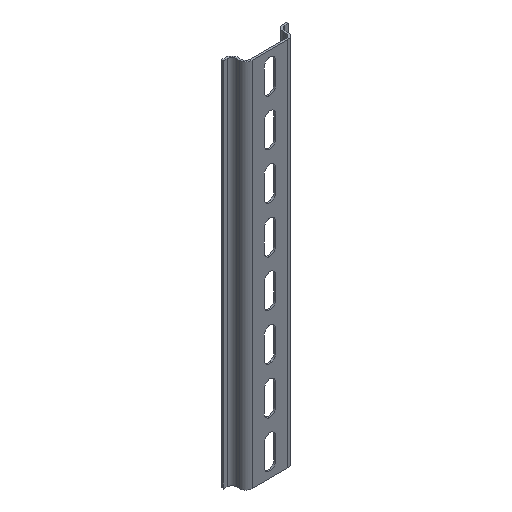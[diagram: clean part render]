
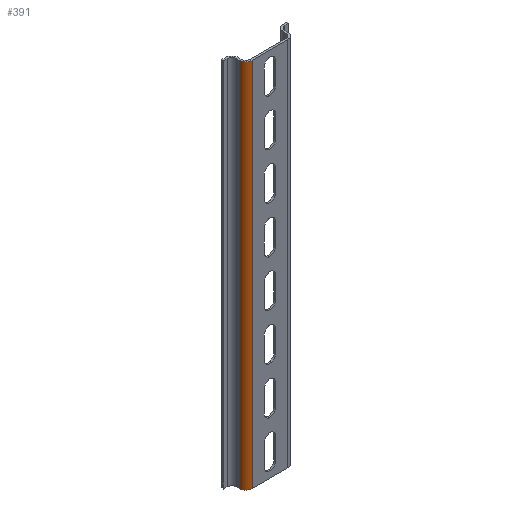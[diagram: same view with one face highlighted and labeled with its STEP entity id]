
A CAD part, isometric view. The second image highlights one B-rep face of the part: STEP entity #391.
In plain terms, the highlighted cylindrical face has radius 3.5 mm (diameter 7 mm), a partial arc.
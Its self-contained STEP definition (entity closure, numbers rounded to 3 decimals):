
#17 = DIRECTION ( 'NONE',  ( 1., 0., 0. ) ) ;
#49 = CARTESIAN_POINT ( 'NONE',  ( -9.6, -1., 0. ) ) ;
#52 = LINE ( 'NONE', #543, #1400 ) ;
#96 = CARTESIAN_POINT ( 'NONE',  ( -13.1, 2.5, 200. ) ) ;
#100 = LINE ( 'NONE', #1503, #2001 ) ;
#181 = DIRECTION ( 'NONE',  ( 1., 0., 0. ) ) ;
#242 = EDGE_CURVE ( 'NONE', #2003, #1641, #2213, .T. ) ;
#312 = EDGE_CURVE ( 'NONE', #2003, #1524, #100, .T. ) ;
#368 = CARTESIAN_POINT ( 'NONE',  ( -9.6, -1., 200. ) ) ;
#375 = VERTEX_POINT ( 'NONE', #394 ) ;
#391 = ADVANCED_FACE ( 'NONE', ( #1966 ), #514, .T. ) ;
#394 = CARTESIAN_POINT ( 'NONE',  ( -13.1, 2.5, 0. ) ) ;
#422 = CARTESIAN_POINT ( 'NONE',  ( -9.6, 2.5, 200. ) ) ;
#479 = AXIS2_PLACEMENT_3D ( 'NONE', #422, #1888, #1699 ) ;
#514 = CYLINDRICAL_SURFACE ( 'NONE', #479, 3.5 ) ;
#543 = CARTESIAN_POINT ( 'NONE',  ( -13.1, 2.5, 200. ) ) ;
#596 = CIRCLE ( 'NONE', #1690, 3.5 ) ;
#781 = CARTESIAN_POINT ( 'NONE',  ( -9.6, 2.5, 0. ) ) ;
#859 = EDGE_CURVE ( 'NONE', #1641, #375, #52, .T. ) ;
#1131 = DIRECTION ( 'NONE',  ( 0., 0., -1. ) ) ;
#1210 = ORIENTED_EDGE ( 'NONE', *, *, #2123, .F. ) ;
#1313 = DIRECTION ( 'NONE',  ( 0., 0., -1. ) ) ;
#1352 = ORIENTED_EDGE ( 'NONE', *, *, #242, .T. ) ;
#1400 = VECTOR ( 'NONE', #1313, 1000. ) ;
#1503 = CARTESIAN_POINT ( 'NONE',  ( -9.6, -1., 200. ) ) ;
#1524 = VERTEX_POINT ( 'NONE', #49 ) ;
#1570 = AXIS2_PLACEMENT_3D ( 'NONE', #1831, #2005, #181 ) ;
#1641 = VERTEX_POINT ( 'NONE', #96 ) ;
#1674 = ORIENTED_EDGE ( 'NONE', *, *, #312, .F. ) ;
#1690 = AXIS2_PLACEMENT_3D ( 'NONE', #781, #2226, #17 ) ;
#1699 = DIRECTION ( 'NONE',  ( -1., 0., 0. ) ) ;
#1831 = CARTESIAN_POINT ( 'NONE',  ( -9.6, 2.5, 200. ) ) ;
#1888 = DIRECTION ( 'NONE',  ( 0., 0., -1. ) ) ;
#1966 = FACE_OUTER_BOUND ( 'NONE', #2298, .T. ) ;
#2001 = VECTOR ( 'NONE', #1131, 1000. ) ;
#2003 = VERTEX_POINT ( 'NONE', #368 ) ;
#2005 = DIRECTION ( 'NONE',  ( 0., 0., -1. ) ) ;
#2123 = EDGE_CURVE ( 'NONE', #1524, #375, #596, .T. ) ;
#2213 = CIRCLE ( 'NONE', #1570, 3.5 ) ;
#2226 = DIRECTION ( 'NONE',  ( 0., 0., -1. ) ) ;
#2298 = EDGE_LOOP ( 'NONE', ( #1210, #1674, #1352, #2347 ) ) ;
#2347 = ORIENTED_EDGE ( 'NONE', *, *, #859, .T. ) ;
